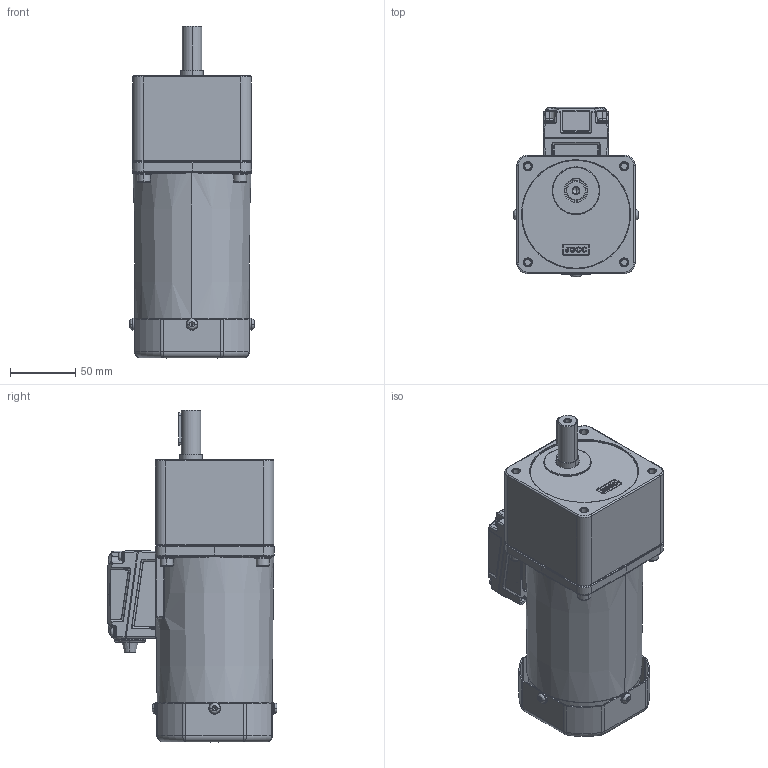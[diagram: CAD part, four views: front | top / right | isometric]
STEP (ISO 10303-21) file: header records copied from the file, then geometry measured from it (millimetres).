
FILE_DESCRIPTION( ('This file contains a STEP AP42 implementation' ,'as created by ZW3D STEP Interface translator.' ,'') ,'2;1' );
FILE_NAME( '120ys01-180.stp' ,'24 712.105050', (''), ('ZWCAD Software Co.'), 'Version 1.0', 'ZW3D to STEP translator', '' );
FILE_SCHEMA(('AUTOMOTIVE_DESIGN { 1 0 10303 214 1 1 1 1 }'));
Length unit declared in the file: millimetre
Products named in the file (10): 0; 120ys01-180; 90YS120G_ASM; 90YS120G_2; YCX_6-200; 90YS120G_1; 3D-JXH-150_300; 90GK-H-180_ASM; 90GK-H-180_1; 90GK-H-180_2
Assembly tree (8 placements, depth 3):
  0
  120ys01-180
    90YS120G_ASM
      90YS120G_2
      YCX_6-200
      90YS120G_1
    3D-JXH-150_300
    90GK-H-180_ASM
      90GK-H-180_1
      90GK-H-180_2
Bounding box: 95.3 x 129.9 x 254 mm (x, y, z)
Volume: 1294038.3 mm3; surface area: 198165.5 mm2
Topology: 6 solids, 15 shells, 2395 faces, 5846 edges, 3553 vertices
Faces by surface type: cylinder 796, plane 701, bspline 655, torus 114, cone 107, sphere 22
Entity records: 119233 total; most frequent: CARTESIAN_POINT 66266, ORIENTED_EDGE 11652, DIRECTION 8921, EDGE_CURVE 5826, VERTEX_POINT 3553, AXIS2_PLACEMENT_3D 3433, EDGE_LOOP 2571, FACE_OUTER_BOUND 2395
